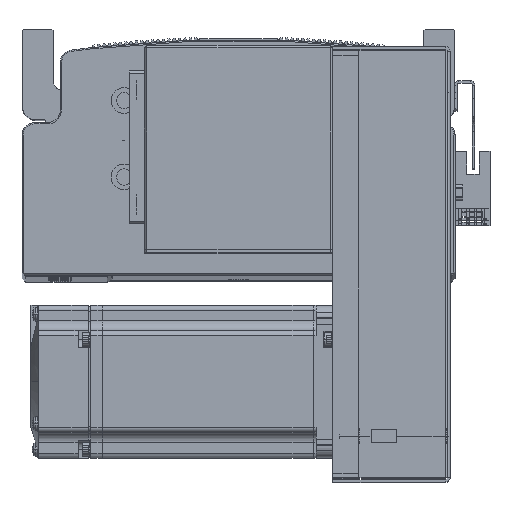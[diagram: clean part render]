
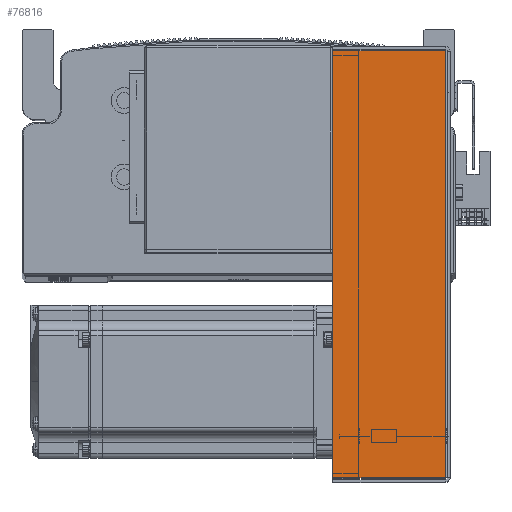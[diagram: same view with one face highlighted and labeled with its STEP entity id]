
A CAD part, top view. The second image highlights one B-rep face of the part: STEP entity #76816.
In plain terms, the highlighted planar face has unit normal (0, 0, 1) as drawn and (0, 0, -1) by its records, which use the part's own axes.
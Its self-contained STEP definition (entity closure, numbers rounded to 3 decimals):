
#1660 = VERTEX_POINT ( 'NONE', #80536 ) ;
#5497 = AXIS2_PLACEMENT_3D ( 'NONE', #19522, #19475, #19477 ) ;
#6159 = FACE_OUTER_BOUND ( 'NONE', #62309, .T. ) ;
#9459 = CARTESIAN_POINT ( 'NONE',  ( -83.793, 45., -40.5 ) ) ;
#9499 = CARTESIAN_POINT ( 'NONE',  ( 83.793, 45., -40.5 ) ) ;
#9521 = CARTESIAN_POINT ( 'NONE',  ( -83.793, 0.737, -40.5 ) ) ;
#15297 = VERTEX_POINT ( 'NONE', #9459 ) ;
#15320 = VERTEX_POINT ( 'NONE', #9521 ) ;
#15335 = VERTEX_POINT ( 'NONE', #9499 ) ;
#19475 = DIRECTION ( 'NONE',  ( 0., 0., 1. ) ) ;
#19477 = DIRECTION ( 'NONE',  ( 0., -1., 0. ) ) ;
#19486 = PLANE ( 'NONE',  #5497 ) ;
#19522 = CARTESIAN_POINT ( 'NONE',  ( 0., 0., -40.5 ) ) ;
#20169 = VECTOR ( 'NONE', #78735, 1000. ) ;
#20257 = LINE ( 'NONE', #78743, #20169 ) ;
#21209 = LINE ( 'NONE', #79602, #21362 ) ;
#21362 = VECTOR ( 'NONE', #79585, 1000. ) ;
#22139 = LINE ( 'NONE', #60857, #22145 ) ;
#22145 = VECTOR ( 'NONE', #60806, 1000. ) ;
#22187 = LINE ( 'NONE', #61260, #22190 ) ;
#22190 = VECTOR ( 'NONE', #61323, 1000. ) ;
#53822 = EDGE_CURVE ( 'NONE', #1660, #15335, #22139, .T. ) ;
#53880 = EDGE_CURVE ( 'NONE', #15320, #1660, #22187, .T. ) ;
#53905 = EDGE_CURVE ( 'NONE', #15320, #15297, #21209, .T. ) ;
#53980 = EDGE_CURVE ( 'NONE', #15297, #15335, #20257, .T. ) ;
#60806 = DIRECTION ( 'NONE',  ( 0., 1., 0. ) ) ;
#60857 = CARTESIAN_POINT ( 'NONE',  ( 83.793, 0., -40.5 ) ) ;
#61260 = CARTESIAN_POINT ( 'NONE',  ( 0., 0.737, -40.5 ) ) ;
#61323 = DIRECTION ( 'NONE',  ( 1., 0., 0. ) ) ;
#62309 = EDGE_LOOP ( 'NONE', ( #69192, #69190, #69191, #69178 ) ) ;
#69178 = ORIENTED_EDGE ( 'NONE', *, *, #53822, .F. ) ;
#69190 = ORIENTED_EDGE ( 'NONE', *, *, #53905, .T. ) ;
#69191 = ORIENTED_EDGE ( 'NONE', *, *, #53980, .T. ) ;
#69192 = ORIENTED_EDGE ( 'NONE', *, *, #53880, .F. ) ;
#76816 = ADVANCED_FACE ( 'NONE', ( #6159 ), #19486, .F. ) ;
#78735 = DIRECTION ( 'NONE',  ( 1., 0., 0. ) ) ;
#78743 = CARTESIAN_POINT ( 'NONE',  ( 84.5, 45., -40.5 ) ) ;
#79585 = DIRECTION ( 'NONE',  ( 0., 1., 0. ) ) ;
#79602 = CARTESIAN_POINT ( 'NONE',  ( -83.793, 0., -40.5 ) ) ;
#80536 = CARTESIAN_POINT ( 'NONE',  ( 83.793, 0.737, -40.5 ) ) ;
